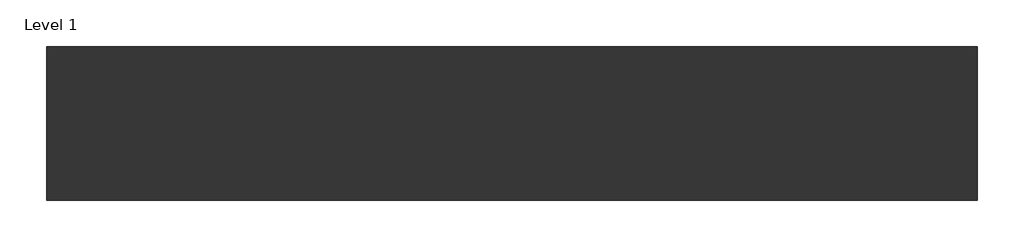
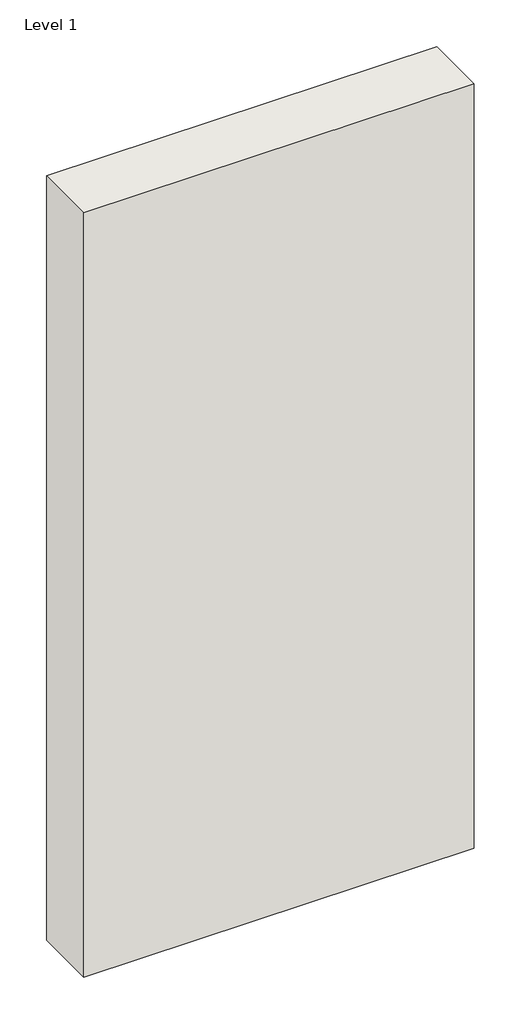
# One storey: 1 wall.
"""IFC4 building model written with IfcOpenShell, lengths in millimetres."""

from ifc_helpers import new_model, si_unit, origin, origin_with_axes, place, context, project, spatial, polyline, outline, extrude, element, save

model = new_model("IFC4")

# Units and contexts
model_context = context("Model", 3, world=origin())
ifc_project = project(units=[si_unit("LENGTHUNIT", "METRE", prefix="MILLI")], contexts=[model_context])

# Site, building, storey
site = spatial("IfcSite", under=ifc_project)
building = spatial("IfcBuilding", under=site)
storey = spatial("IfcBuildingStorey", under=building, Name="Level 1", Elevation=0.0)

# Wall
placement = place(None, origin())
element("IfcWall", 1, ObjectType="Fachada Placotherm Integra 210 mm arena APTA (Glasroc® X)", at=placement, inside=storey, context=model_context, shape_type="SweptSolid", body=[
    extrude(outline(polyline([(-28686.4711674, -102761.2360209), (-29943.1398319, -102761.2360209), (-29943.1398319, -102553.7360209), (-28686.4711674, -102553.7360209), (-28686.4711674, -102761.2360209)])), origin_with_axes(), (0.0, 0.0, 1.0), 2600.0),
])

save(model, "model.ifc")
